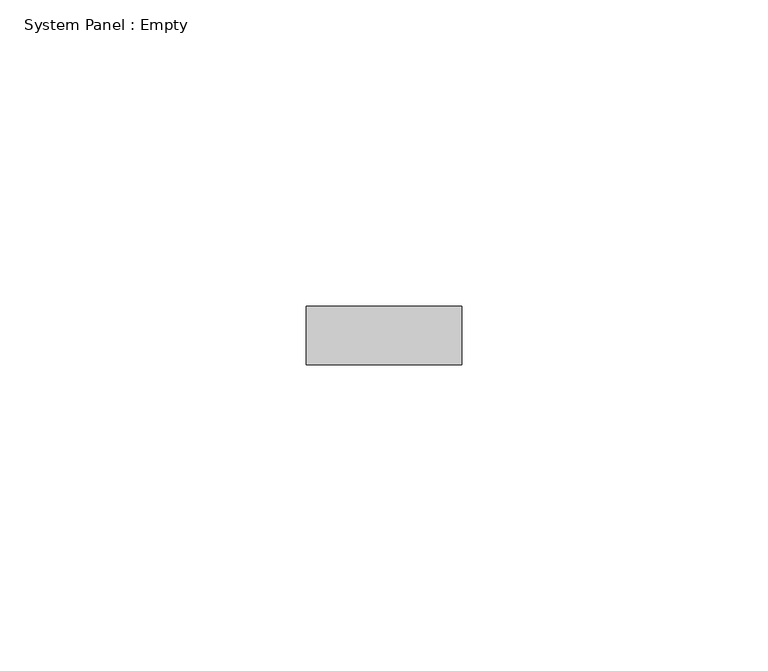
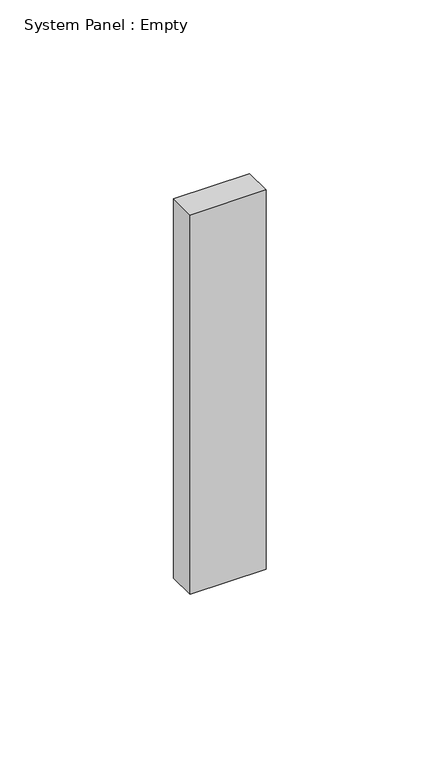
"""IFC4 building model written with IfcOpenShell, lengths in millimetres: plate geometry, System Panel : Empty."""

from ifc_helpers import new_model, si_unit, origin, origin_with_axes, place, context, project, spatial, polyline, outline, extrude, source, transform, mapped, element, save


def system_panel_empty_b4032a90(model_context):
    return source(origin(), model_context, "Body", "SweptSolid", [
        extrude(outline(polyline([(12.6999998, -4.7625), (-12.6999998, -4.7625), (-12.6999998, 4.7625), (12.6999998, 4.7625), (12.6999998, -4.7625)])), origin_with_axes(), (0.0, 0.0, 1.0), 133.35),
    ])


if __name__ == "__main__":
    model = new_model("IFC4")
    model_context = context("Model", 3, world=origin())
    ifc_project = project(units=[si_unit("LENGTHUNIT", "METRE", prefix="MILLI")], contexts=[model_context])
    site = spatial("IfcSite", under=ifc_project)
    building = spatial("IfcBuilding", under=site)
    placement = place(None, origin())
    system_panel_empty_shape = system_panel_empty_b4032a90(model_context)
    element("IfcPlate", 1, ObjectType="System Panel : Empty", at=placement, inside=building, context=model_context, shape_type="MappedRepresentation", body=[
        mapped(system_panel_empty_shape, transform((0.0, 0.0, 0.0), x_axis=(1.0, 0.0, 0.0), y_axis=(0.0, 1.0, 0.0), z_axis=(0.0, 0.0, 1.0))),
    ])
    save(model, "model.ifc")
